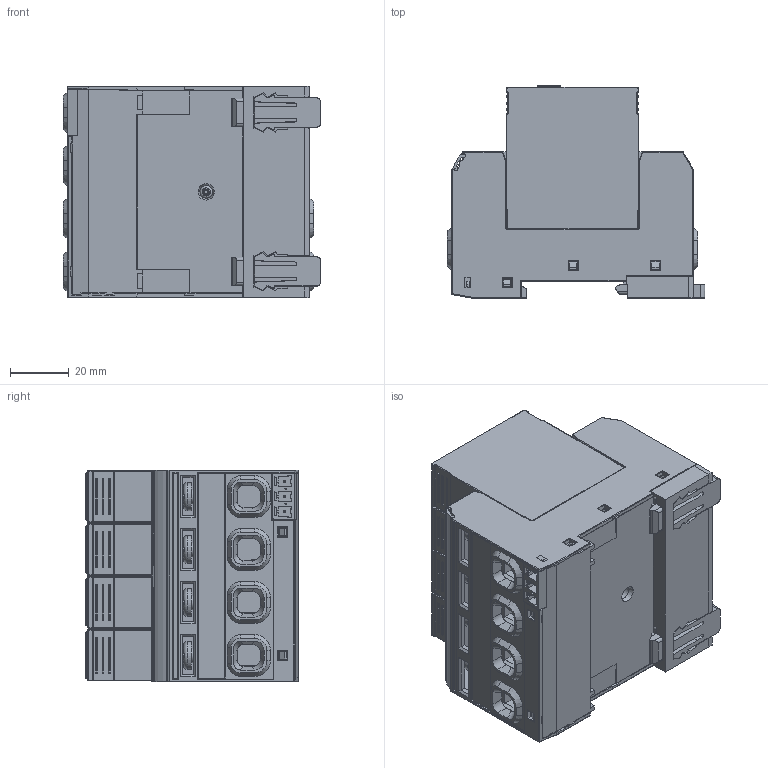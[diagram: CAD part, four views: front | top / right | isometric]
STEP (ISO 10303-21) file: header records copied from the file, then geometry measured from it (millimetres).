
FILE_DESCRIPTION( ( 'Unknown' ), '1' );
FILE_NAME( 'C:/Users/pdellaca/Desktop/Colombo 7P/S 450V 4+0 3+1 --- catalogo.stp', 'Unknown', ( 'Unknown' ), ( 'Unknown' ), 'PSStep 15.0.49', 'Unknown', ' ' );
FILE_SCHEMA( ( 'AUTOMOTIVE_DESIGN { 1 0 10303 214 1 1 1 1 }' ) );
Length unit declared in the file: millimetre
Products named in the file (39): top
Bounding box: 87.56 x 72.11 x 71.85 mm (x, y, z)
Surface area: 70414 mm2 (no closed solid volume)
Topology: 0 solids, 1973 shells, 1973 faces, 10051 edges, 9950 vertices
Faces by surface type: plane 1136, cylinder 556, torus 99, cone 76, sphere 70, bspline 22, revolution 14
Full cylindrical faces by diameter (mm): 4.2 x1, 5 x4, 9.5 x4
Entity records: 116035 total; most frequent: CARTESIAN_POINT 24660, DIRECTION 15965, ORIENTED_EDGE 9928, EDGE_CURVE 9928, VERTEX_POINT 9928, LINE 6743, VECTOR 6743, AXIS2_PLACEMENT_3D 4604
